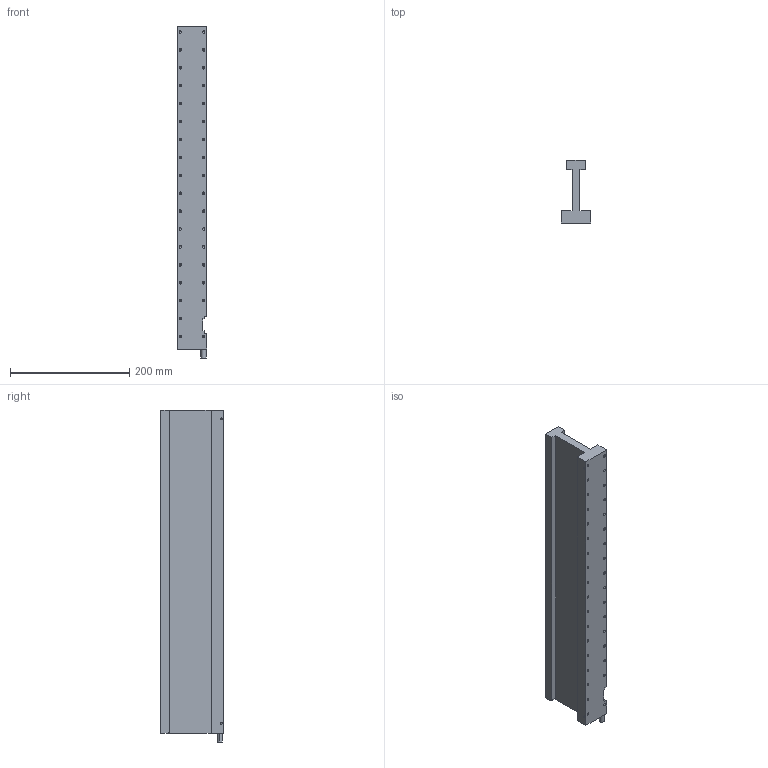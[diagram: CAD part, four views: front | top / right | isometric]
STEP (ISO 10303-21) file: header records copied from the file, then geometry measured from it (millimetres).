
FILE_DESCRIPTION (( 'STEP AP214' ), '1' );
FILE_NAME ('JKA59.STEP', '2025-09-05T08:51:17', ( '' ), ( '' ), 'SwSTEP 2.0', 'SolidWorks 2016', '' );
FILE_SCHEMA (( 'AUTOMOTIVE_DESIGN' ));
Length unit declared in the file: millimetre
Products named in the file (1): JKA59
Bounding box: 49 x 104.8 x 556 mm (x, y, z)
Volume: 1276669.2 mm3; surface area: 197529.9 mm2
Topology: 1 solids, 1 shells, 203 faces, 519 edges, 277 vertices
Faces by surface type: cylinder 92, cone 82, plane 29
Entity records: 6477 total; most frequent: DIRECTION 1019, CARTESIAN_POINT 964, ORIENTED_EDGE 874, EDGE_CURVE 437, AXIS2_PLACEMENT_3D 384, VERTEX_POINT 277, LINE 251, VECTOR 251
